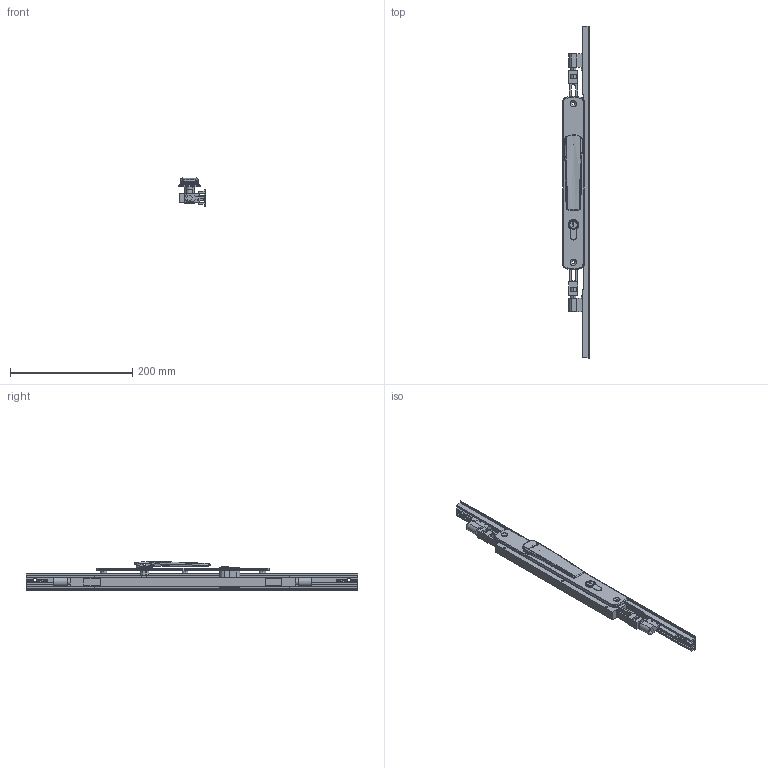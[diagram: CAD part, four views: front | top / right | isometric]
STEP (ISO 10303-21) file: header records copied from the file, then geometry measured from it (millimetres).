
FILE_DESCRIPTION (( 'STEP AP214' ), '1' );
FILE_NAME ('TPL-W-EU-622-L 06Nov2024.STEP', '2024-11-27T05:33:29', ( '' ), ( '' ), 'SwSTEP 2.0', 'SolidWorks 2023', '' );
FILE_SCHEMA (( 'AUTOMOTIVE_DESIGN' ));
Length unit declared in the file: millimetre
Products named in the file (19): Copy of LKC-505 Swing handle zinc - simplified^Copy of TPGen2 handle keyed internal zinc - simplified_TPL-W-EU-122 04Nov2024; TPLGen2 push rod - simplified_Female thread M10; Copy of LKC-531 Lock twinpoint transmission rod wood system^TPL-W-EU-122 04Nov2024_Standard Range (588.7mm); Copy of TPGen2 handle keyed internal zinc - simplified^TPL-W-EU-122 04Nov2024_Vertical; Copy of LKC-584 Pivot body zinc - simplified^Copy of TPGen2 handle keyed internal zinc - simplified_TPL-W-EU-122 04Nov2024; Copy of LKC-586 Spindle square 8mm with M4 hole^Copy of TPGen2 handle keyed internal zinc - simplified_TPL-W-EU-122 04Nov2024_25mm; Copy of Copy of LKC-531 Lock twinpoint transmission rod wood system^TPL-W-EU-122 04Nov2024_Standard Range 2891.7mm; Copy of COV-112-C Cover C TPLGen2 Lock body^TPL-W-EU-122 04Nov2024; Copy of TPLGen2 lock body keyed assembly^TPL-W-EU-122 04Nov2024_Bolts extended; Copy of LKC-512 Escutcheon plate keyed internal 285mm long zinc - simplified^Copy of TPGen2 handle keyed internal zinc - simplified_TPL-W-EU-122 04Nov2024; Copy of COV-112-B Cover B suit TPLGen2 standard range^TPL-W-EU-122 04Nov2024_2870mm; Copy of Adapter DnF - simplfied^TPL-W-EU-122 04Nov2024_26mm backset; TPL-W-EU-622-L 06Nov2024; Copy of TPLGen2 lock body keyed^Copy of TPLGen2 lock body keyed assembly_TPL-W-EU-122 04Nov2024; Copy of TPL-W-EU-130 04Nov2024^TPL-W-EU-122 04Nov2024_TPL-022 Left; Copy of LKC-585 Rotator body zinc^Copy of TPGen2 handle keyed internal zinc - simplified_TPL-W-EU-122 04Nov2024; Copy of COV-112-A Cover A suit TPLGen2 standard range^TPL-W-EU-122 04Nov2024_1335mm; Bolt.step; Copy of Adapter CnE - simplfied^TPL-W-EU-122 04Nov2024_26mm backset
Assembly tree (16 placements, depth 3):
  Copy of COV-112-B Cover B suit TPLGen2 standard range^TPL-W-EU-122 04Nov2024_2870mm
  TPL-W-EU-622-L 06Nov2024
    Copy of TPLGen2 lock body keyed assembly^TPL-W-EU-122 04Nov2024_Bolts extended
      Copy of TPLGen2 lock body keyed^Copy of TPLGen2 lock body keyed assembly_TPL-W-EU-122 04Nov2024
      TPLGen2 push rod - simplified_Female thread M10  x2
    Copy of TPGen2 handle keyed internal zinc - simplified^TPL-W-EU-122 04Nov2024_Vertical
      Copy of LKC-512 Escutcheon plate keyed internal 285mm long zinc - simplified^Copy of TPGen2 handle keyed internal zinc - simplified_TPL-W-EU-122 04Nov2024
      Copy of LKC-505 Swing handle zinc - simplified^Copy of TPGen2 handle keyed internal zinc - simplified_TPL-W-EU-122 04Nov2024
      Copy of LKC-585 Rotator body zinc^Copy of TPGen2 handle keyed internal zinc - simplified_TPL-W-EU-122 04Nov2024
      Copy of LKC-586 Spindle square 8mm with M4 hole^Copy of TPGen2 handle keyed internal zinc - simplified_TPL-W-EU-122 04Nov2024_25mm
      Copy of LKC-584 Pivot body zinc - simplified^Copy of TPGen2 handle keyed internal zinc - simplified_TPL-W-EU-122 04Nov2024
    Copy of TPL-W-EU-130 04Nov2024^TPL-W-EU-122 04Nov2024_TPL-022 Left
    Copy of COV-112-C Cover C TPLGen2 Lock body^TPL-W-EU-122 04Nov2024
    Copy of LKC-531 Lock twinpoint transmission rod wood system^TPL-W-EU-122 04Nov2024_Standard Range (588.7mm)
    Copy of Copy of LKC-531 Lock twinpoint transmission rod wood system^TPL-W-EU-122 04Nov2024_Standard Range 2891.7mm
    Copy of Adapter CnE - simplfied^TPL-W-EU-122 04Nov2024_26mm backset
    Copy of Adapter DnF - simplfied^TPL-W-EU-122 04Nov2024_26mm backset
  Copy of COV-112-A Cover A suit TPLGen2 standard range^TPL-W-EU-122 04Nov2024_1335mm
  Bolt.step
Bounding box: 43.5 x 544 x 46.26 mm (x, y, z)
Volume: 281244 mm3; surface area: 138721.9 mm2
Topology: 14 solids, 14 shells, 921 faces, 2293 edges, 1430 vertices
Faces by surface type: plane 325, bspline 241, cylinder 230, cone 71, torus 46, sphere 8
Entity records: 33110 total; most frequent: CARTESIAN_POINT 13052, ORIENTED_EDGE 4394, DIRECTION 3632, EDGE_CURVE 2197, VERTEX_POINT 1370, AXIS2_PLACEMENT_3D 1336, EDGE_LOOP 985, VECTOR 960
